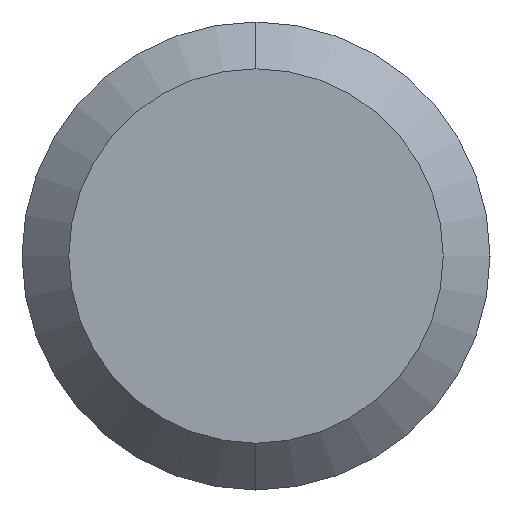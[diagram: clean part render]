
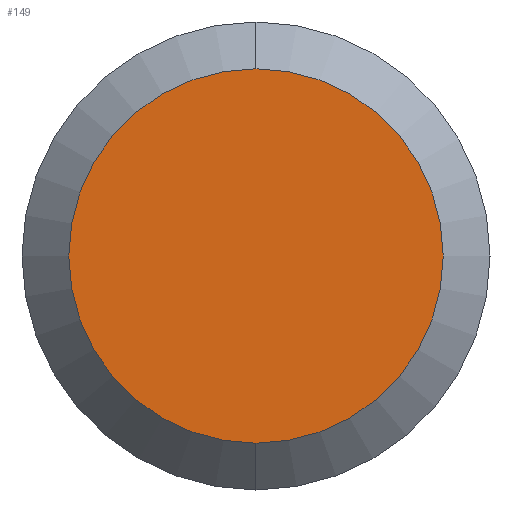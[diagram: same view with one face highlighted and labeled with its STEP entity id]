
A CAD part, left-side view. The second image highlights one B-rep face of the part: STEP entity #149.
In plain terms, the highlighted planar face has unit normal (-1, 0, 0).
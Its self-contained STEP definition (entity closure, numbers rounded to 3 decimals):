
#8 = CARTESIAN_POINT ( 'NONE',  ( 0., 0., -4. ) ) ;
#11 = EDGE_CURVE ( 'NONE', #257, #409, #234, .T. ) ;
#20 = CIRCLE ( 'NONE', #418, 4. ) ;
#45 = DIRECTION ( 'NONE',  ( 1., 0., 0. ) ) ;
#51 = PLANE ( 'NONE',  #282 ) ;
#55 = FACE_OUTER_BOUND ( 'NONE', #417, .T. ) ;
#58 = CARTESIAN_POINT ( 'NONE',  ( 0., 4., 0. ) ) ;
#72 = DIRECTION ( 'NONE',  ( -1., 0., 0. ) ) ;
#79 = DIRECTION ( 'NONE',  ( 0., 0., -1. ) ) ;
#149 = ADVANCED_FACE ( 'NONE', ( #55 ), #51, .F. ) ;
#184 = CARTESIAN_POINT ( 'NONE',  ( 0., 0., 4. ) ) ;
#234 = CIRCLE ( 'NONE', #293, 4. ) ;
#257 = VERTEX_POINT ( 'NONE', #8 ) ;
#274 = CARTESIAN_POINT ( 'NONE',  ( 0., 0., 0. ) ) ;
#282 = AXIS2_PLACEMENT_3D ( 'NONE', #58, #45, #79 ) ;
#293 = AXIS2_PLACEMENT_3D ( 'NONE', #318, #314, #313 ) ;
#308 = DIRECTION ( 'NONE',  ( 0., 0., 1. ) ) ;
#313 = DIRECTION ( 'NONE',  ( 0., 0., 1. ) ) ;
#314 = DIRECTION ( 'NONE',  ( -1., 0., 0. ) ) ;
#318 = CARTESIAN_POINT ( 'NONE',  ( 0., 0., 0. ) ) ;
#370 = EDGE_CURVE ( 'NONE', #409, #257, #20, .T. ) ;
#374 = ORIENTED_EDGE ( 'NONE', *, *, #370, .T. ) ;
#394 = ORIENTED_EDGE ( 'NONE', *, *, #11, .T. ) ;
#409 = VERTEX_POINT ( 'NONE', #184 ) ;
#417 = EDGE_LOOP ( 'NONE', ( #394, #374 ) ) ;
#418 = AXIS2_PLACEMENT_3D ( 'NONE', #274, #72, #308 ) ;
